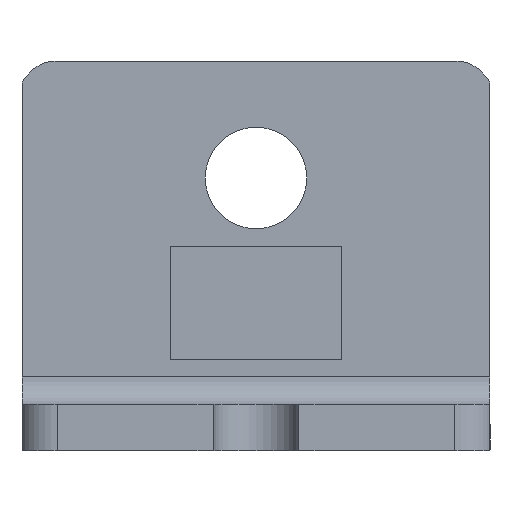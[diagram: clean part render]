
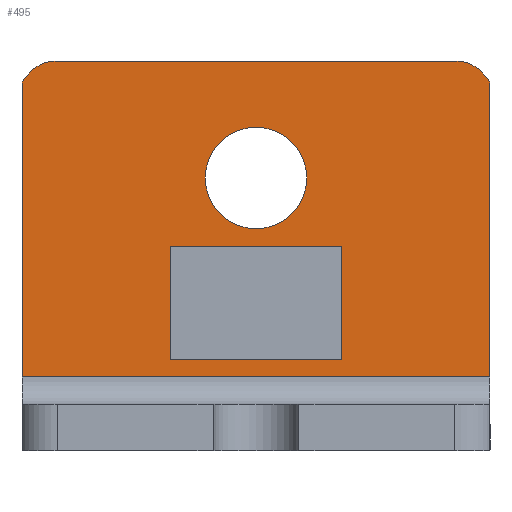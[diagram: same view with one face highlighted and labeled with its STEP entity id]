
A CAD part, front view. The second image highlights one B-rep face of the part: STEP entity #495.
In plain terms, the highlighted planar face has unit normal (0, -1, 0).
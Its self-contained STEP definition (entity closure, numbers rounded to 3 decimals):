
#16=FACE_BOUND('',#100,.T.);
#17=FACE_BOUND('',#101,.T.);
#39=CIRCLE('',#534,5.);
#40=CIRCLE('',#537,5.);
#41=CIRCLE('',#540,6.5);
#69=FACE_OUTER_BOUND('',#99,.T.);
#99=EDGE_LOOP('',(#431,#432,#433,#434,#435,#436));
#100=EDGE_LOOP('',(#437,#438,#439,#440));
#101=EDGE_LOOP('',(#441));
#102=LINE('',#686,#152);
#106=LINE('',#694,#156);
#109=LINE('',#700,#159);
#112=LINE('',#705,#162);
#121=LINE('',#731,#171);
#146=LINE('',#800,#196);
#148=LINE('',#807,#198);
#151=LINE('',#814,#201);
#152=VECTOR('',#546,14.5);
#156=VECTOR('',#552,22.);
#159=VECTOR('',#557,14.5);
#162=VECTOR('',#562,22.);
#171=VECTOR('',#589,60.);
#196=VECTOR('',#658,37.679);
#198=VECTOR('',#666,51.);
#201=VECTOR('',#675,37.679);
#202=VERTEX_POINT('',#684);
#203=VERTEX_POINT('',#685);
#206=VERTEX_POINT('',#693);
#208=VERTEX_POINT('',#699);
#212=VERTEX_POINT('',#712);
#217=VERTEX_POINT('',#723);
#239=VERTEX_POINT('',#798);
#240=VERTEX_POINT('',#802);
#241=VERTEX_POINT('',#806);
#242=VERTEX_POINT('',#810);
#243=VERTEX_POINT('',#816);
#244=EDGE_CURVE('',#202,#203,#102,.T.);
#248=EDGE_CURVE('',#206,#202,#106,.T.);
#251=EDGE_CURVE('',#208,#206,#109,.T.);
#254=EDGE_CURVE('',#203,#208,#112,.T.);
#267=EDGE_CURVE('',#217,#212,#121,.T.);
#301=EDGE_CURVE('',#239,#212,#146,.T.);
#302=EDGE_CURVE('',#240,#239,#39,.T.);
#304=EDGE_CURVE('',#241,#240,#148,.T.);
#306=EDGE_CURVE('',#242,#241,#40,.T.);
#308=EDGE_CURVE('',#217,#242,#151,.T.);
#309=EDGE_CURVE('',#243,#243,#41,.T.);
#431=ORIENTED_EDGE('',*,*,#267,.T.);
#432=ORIENTED_EDGE('',*,*,#301,.F.);
#433=ORIENTED_EDGE('',*,*,#302,.F.);
#434=ORIENTED_EDGE('',*,*,#304,.F.);
#435=ORIENTED_EDGE('',*,*,#306,.F.);
#436=ORIENTED_EDGE('',*,*,#308,.F.);
#437=ORIENTED_EDGE('',*,*,#244,.T.);
#438=ORIENTED_EDGE('',*,*,#254,.T.);
#439=ORIENTED_EDGE('',*,*,#251,.T.);
#440=ORIENTED_EDGE('',*,*,#248,.T.);
#441=ORIENTED_EDGE('',*,*,#309,.T.);
#461=PLANE('',#541);
#495=ADVANCED_FACE('',(#69,#16,#17),#461,.T.);
#534=AXIS2_PLACEMENT_3D('',#803,#661,#662);
#537=AXIS2_PLACEMENT_3D('',#811,#670,#671);
#540=AXIS2_PLACEMENT_3D('',#817,#678,#679);
#541=AXIS2_PLACEMENT_3D('',#818,#680,#681);
#546=DIRECTION('',(0.,0.,-1.));
#552=DIRECTION('',(1.,0.,0.));
#557=DIRECTION('',(0.,0.,1.));
#562=DIRECTION('',(-1.,0.,0.));
#589=DIRECTION('',(1.,0.,0.));
#658=DIRECTION('',(0.,0.,-1.));
#661=DIRECTION('center_axis',(0.,1.,0.));
#662=DIRECTION('ref_axis',(0.9,0.,0.436));
#666=DIRECTION('',(1.,0.,0.));
#670=DIRECTION('center_axis',(0.,1.,0.));
#671=DIRECTION('ref_axis',(0.,0.,1.));
#675=DIRECTION('',(0.,0.,1.));
#678=DIRECTION('center_axis',(0.,1.,0.));
#679=DIRECTION('ref_axis',(-1.,0.,0.));
#680=DIRECTION('center_axis',(0.,-1.,0.));
#681=DIRECTION('ref_axis',(1.,0.,0.));
#684=CARTESIAN_POINT('',(11.,-31.,26.25));
#685=CARTESIAN_POINT('',(11.,-31.,11.75));
#686=CARTESIAN_POINT('',(11.,-31.,-0.274));
#693=CARTESIAN_POINT('',(-11.,-31.,26.25));
#694=CARTESIAN_POINT('',(-5.5,-31.,26.25));
#699=CARTESIAN_POINT('',(-11.,-31.,11.75));
#700=CARTESIAN_POINT('',(-11.,-31.,-7.524));
#705=CARTESIAN_POINT('',(5.5,-31.,11.75));
#712=CARTESIAN_POINT('',(30.,-31.,9.5));
#723=CARTESIAN_POINT('',(-30.,-31.,9.5));
#731=CARTESIAN_POINT('',(15.,-31.,9.5));
#798=CARTESIAN_POINT('',(30.,-31.,47.179));
#800=CARTESIAN_POINT('',(30.,-31.,-87.179));
#802=CARTESIAN_POINT('',(25.5,-31.,50.));
#803=CARTESIAN_POINT('Origin',(25.5,-31.,45.));
#806=CARTESIAN_POINT('',(-25.5,-31.,50.));
#807=CARTESIAN_POINT('',(25.5,-31.,50.));
#810=CARTESIAN_POINT('',(-30.,-31.,47.179));
#811=CARTESIAN_POINT('Origin',(-25.5,-31.,45.));
#814=CARTESIAN_POINT('',(-30.,-31.,47.179));
#816=CARTESIAN_POINT('',(6.5,-31.,35.));
#817=CARTESIAN_POINT('Origin',(0.,-31.,35.));
#818=CARTESIAN_POINT('Origin',(0.,-31.,-26.798));
